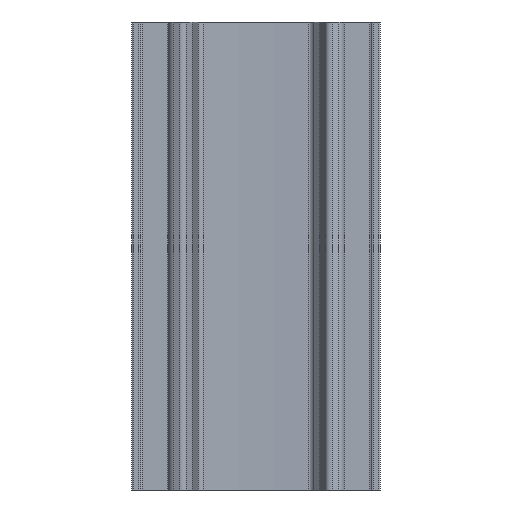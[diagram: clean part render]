
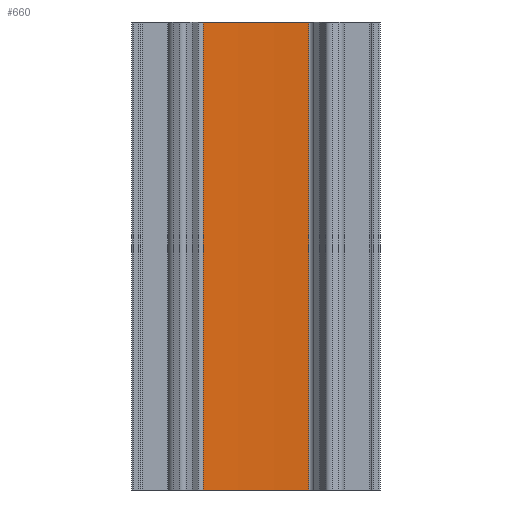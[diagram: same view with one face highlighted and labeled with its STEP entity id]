
A CAD part, front view. The second image highlights one B-rep face of the part: STEP entity #660.
In plain terms, the highlighted cylindrical face has radius 50 mm (diameter 100 mm), a partial arc.
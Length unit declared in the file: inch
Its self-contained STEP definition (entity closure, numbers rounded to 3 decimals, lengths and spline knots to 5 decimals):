
#600=CARTESIAN_POINT('',(0.11266,-0.01504,1.0));
#601=VERTEX_POINT('',#600);
#609=CARTESIAN_POINT('',(0.11266,-0.01504,0.0));
#610=VERTEX_POINT('',#609);
#611=CARTESIAN_POINT('',(0.11266,-0.01504,0.0));
#612=DIRECTION('',(0.0,0.0,1.0));
#613=VECTOR('',#612,1.0);
#614=LINE('',#611,#613);
#615=EDGE_CURVE('',#610,#601,#614,.T.);
#628=CARTESIAN_POINT('',(0.,-1.98031,0.0));
#629=DIRECTION('',(0.0,0.0,1.0));
#630=DIRECTION('',(-0.057,-0.998,0.0));
#631=AXIS2_PLACEMENT_3D('',#628,#629,#630);
#632=CYLINDRICAL_SURFACE('',#631,1.9685);
#633=CARTESIAN_POINT('',(-0.11266,-0.01504,1.0));
#634=VERTEX_POINT('',#633);
#635=CARTESIAN_POINT('',(0.,-1.98031,1.0));
#636=DIRECTION('',(0.0,0.0,1.0));
#637=DIRECTION('',(-0.057,-0.998,0.0));
#638=AXIS2_PLACEMENT_3D('',#635,#636,#637);
#639=CIRCLE('',#638,1.9685);
#640=EDGE_CURVE('',#601,#634,#639,.T.);
#641=ORIENTED_EDGE('',*,*,#640,.T.);
#642=CARTESIAN_POINT('',(-0.11266,-0.01504,0.0));
#643=VERTEX_POINT('',#642);
#644=CARTESIAN_POINT('',(-0.11266,-0.01504,0.0));
#645=DIRECTION('',(0.0,0.0,1.0));
#646=VECTOR('',#645,1.0);
#647=LINE('',#644,#646);
#648=EDGE_CURVE('',#643,#634,#647,.T.);
#649=ORIENTED_EDGE('',*,*,#648,.F.);
#650=CARTESIAN_POINT('',(0.,-1.98031,0.0));
#651=DIRECTION('',(0.0,0.0,-1.0));
#652=DIRECTION('',(-0.057,-0.998,0.0));
#653=AXIS2_PLACEMENT_3D('',#650,#651,#652);
#654=CIRCLE('',#653,1.9685);
#655=EDGE_CURVE('',#643,#610,#654,.T.);
#656=ORIENTED_EDGE('',*,*,#655,.T.);
#657=ORIENTED_EDGE('',*,*,#615,.T.);
#658=EDGE_LOOP('',(#641,#649,#656,#657));
#659=FACE_OUTER_BOUND('',#658,.T.);
#660=ADVANCED_FACE('',(#659),#632,.F.);
